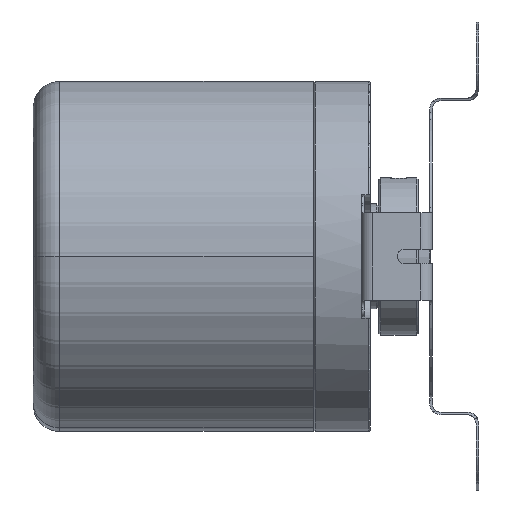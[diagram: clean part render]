
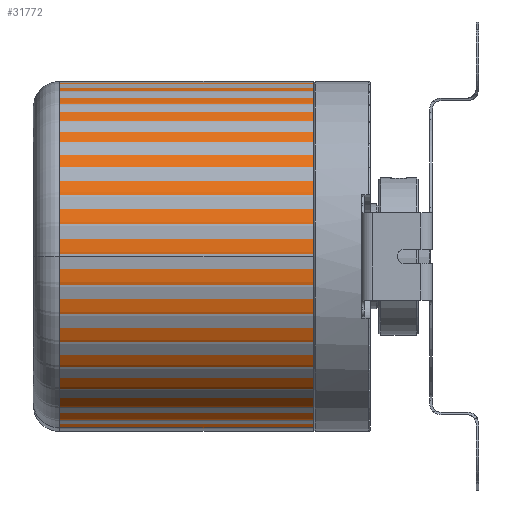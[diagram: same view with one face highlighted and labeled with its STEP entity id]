
A CAD part, front view. The second image highlights one B-rep face of the part: STEP entity #31772.
In plain terms, the highlighted cylindrical face has radius 20 mm (diameter 40 mm), a partial arc.
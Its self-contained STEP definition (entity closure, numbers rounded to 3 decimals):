
#581 = EDGE_CURVE ( 'NONE', #36425, #2893, #21356, .T. ) ;
#1712 = DIRECTION ( 'NONE',  ( 0., 0., 1. ) ) ;
#2893 = VERTEX_POINT ( 'NONE', #38717 ) ;
#6085 = DIRECTION ( 'NONE',  ( 0., 0., -1. ) ) ;
#9671 = EDGE_CURVE ( 'NONE', #2893, #11010, #78160, .T. ) ;
#10551 = EDGE_CURVE ( 'NONE', #36425, #86114, #36570, .T. ) ;
#11010 = VERTEX_POINT ( 'NONE', #87231 ) ;
#11788 = EDGE_LOOP ( 'NONE', ( #31602, #46017, #47564, #31634 ) ) ;
#11900 = VECTOR ( 'NONE', #6085, 1000. ) ;
#12569 = CARTESIAN_POINT ( 'NONE',  ( 20., 0., 32. ) ) ;
#21356 = CIRCLE ( 'NONE', #50812, 20. ) ;
#25915 = DIRECTION ( 'NONE',  ( 1., 0., 0. ) ) ;
#26143 = DIRECTION ( 'NONE',  ( 0., 0., 1. ) ) ;
#26214 = CARTESIAN_POINT ( 'NONE',  ( 0., 0., 32. ) ) ;
#29853 = CARTESIAN_POINT ( 'NONE',  ( -20., 0., 32. ) ) ;
#31602 = ORIENTED_EDGE ( 'NONE', *, *, #9671, .F. ) ;
#31634 = ORIENTED_EDGE ( 'NONE', *, *, #78971, .T. ) ;
#31772 = ADVANCED_FACE ( 'NONE', ( #54095 ), #70104, .T. ) ;
#33898 = CARTESIAN_POINT ( 'NONE',  ( -20., 0., 32. ) ) ;
#36425 = VERTEX_POINT ( 'NONE', #29853 ) ;
#36570 = LINE ( 'NONE', #33898, #11900 ) ;
#38717 = CARTESIAN_POINT ( 'NONE',  ( 20., 0., 32. ) ) ;
#42643 = CARTESIAN_POINT ( 'NONE',  ( 0., 0., 3. ) ) ;
#42906 = CIRCLE ( 'NONE', #50569, 20. ) ;
#46017 = ORIENTED_EDGE ( 'NONE', *, *, #581, .F. ) ;
#47564 = ORIENTED_EDGE ( 'NONE', *, *, #10551, .T. ) ;
#49420 = DIRECTION ( 'NONE',  ( 1., 0., 0. ) ) ;
#50569 = AXIS2_PLACEMENT_3D ( 'NONE', #42643, #1712, #49420 ) ;
#50812 = AXIS2_PLACEMENT_3D ( 'NONE', #26214, #26143, #25915 ) ;
#52812 = DIRECTION ( 'NONE',  ( -1., 0., 0. ) ) ;
#54095 = FACE_OUTER_BOUND ( 'NONE', #11788, .T. ) ;
#59649 = CARTESIAN_POINT ( 'NONE',  ( 0., 0., 32. ) ) ;
#60030 = VECTOR ( 'NONE', #74026, 1000. ) ;
#66206 = DIRECTION ( 'NONE',  ( 0., 0., -1. ) ) ;
#70104 = CYLINDRICAL_SURFACE ( 'NONE', #78148, 20. ) ;
#74026 = DIRECTION ( 'NONE',  ( 0., 0., -1. ) ) ;
#78148 = AXIS2_PLACEMENT_3D ( 'NONE', #59649, #66206, #52812 ) ;
#78160 = LINE ( 'NONE', #12569, #60030 ) ;
#78971 = EDGE_CURVE ( 'NONE', #86114, #11010, #42906, .T. ) ;
#82810 = CARTESIAN_POINT ( 'NONE',  ( -20., 0., 3. ) ) ;
#86114 = VERTEX_POINT ( 'NONE', #82810 ) ;
#87231 = CARTESIAN_POINT ( 'NONE',  ( 20., 0., 3. ) ) ;
